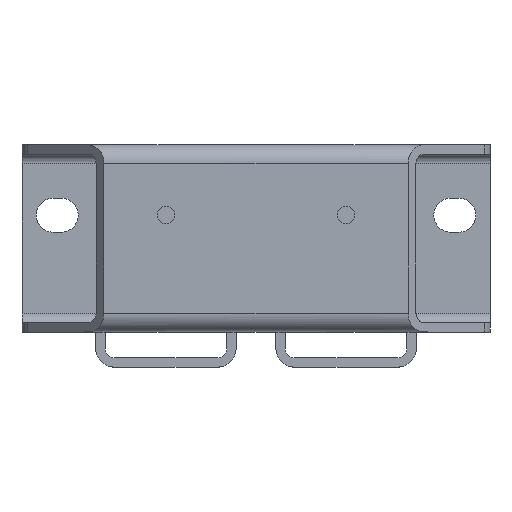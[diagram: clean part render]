
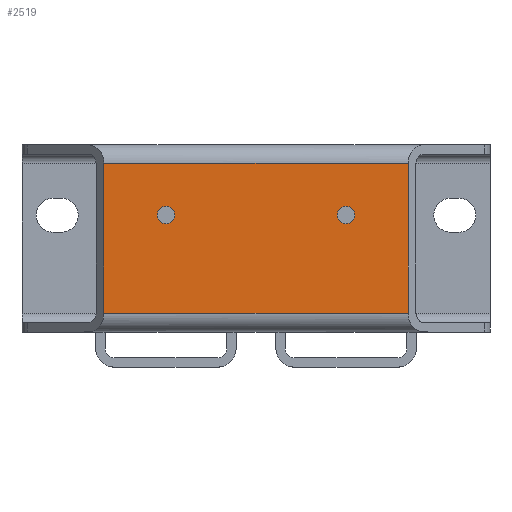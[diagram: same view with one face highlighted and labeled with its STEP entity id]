
A CAD part, top view. The second image highlights one B-rep face of the part: STEP entity #2519.
In plain terms, the highlighted planar face has unit normal (0, 0, 1).
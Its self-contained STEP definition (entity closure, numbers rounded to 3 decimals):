
#244=CARTESIAN_POINT('',(-65.,-32.,30.0));
#245=VERTEX_POINT('',#244);
#253=CARTESIAN_POINT('',(-65.,32.,30.0));
#254=VERTEX_POINT('',#253);
#255=CARTESIAN_POINT('',(-65.,32.,30.));
#256=DIRECTION('',(0.0,-1.0,0.0));
#257=VECTOR('',#256,64.);
#258=LINE('',#255,#257);
#259=EDGE_CURVE('',#254,#245,#258,.T.);
#583=CARTESIAN_POINT('',(65.,32.,30.0));
#584=VERTEX_POINT('',#583);
#592=CARTESIAN_POINT('',(65.,-32.,30.0));
#593=VERTEX_POINT('',#592);
#594=CARTESIAN_POINT('',(65.,-32.,30.));
#595=DIRECTION('',(0.0,1.0,0.0));
#596=VECTOR('',#595,64.);
#597=LINE('',#594,#596);
#598=EDGE_CURVE('',#593,#584,#597,.T.);
#1106=CARTESIAN_POINT('',(34.8,10.0,30.0));
#1107=VERTEX_POINT('',#1106);
#1108=CARTESIAN_POINT('',(38.5,10.0,30.0));
#1109=DIRECTION('',(0.0,0.0,-1.0));
#1110=DIRECTION('',(-1.0,0.0,0.0));
#1111=AXIS2_PLACEMENT_3D('',#1108,#1109,#1110);
#1112=CIRCLE('',#1111,3.7);
#1113=EDGE_CURVE('',#1107,#1107,#1112,.T.);
#1619=CARTESIAN_POINT('',(65.,32.,30.0));
#1620=DIRECTION('',(-1.0,0.0,0.0));
#1621=VECTOR('',#1620,130.);
#1622=LINE('',#1619,#1621);
#1623=EDGE_CURVE('',#584,#254,#1622,.T.);
#2088=CARTESIAN_POINT('',(-65.,-32.,30.0));
#2089=DIRECTION('',(1.0,0.0,0.0));
#2090=VECTOR('',#2089,130.);
#2091=LINE('',#2088,#2090);
#2092=EDGE_CURVE('',#245,#593,#2091,.T.);
#2181=CARTESIAN_POINT('',(-34.8,10.0,30.0));
#2182=VERTEX_POINT('',#2181);
#2183=CARTESIAN_POINT('',(-38.5,10.0,30.0));
#2184=DIRECTION('',(0.0,0.0,-1.0));
#2185=DIRECTION('',(1.0,0.0,0.0));
#2186=AXIS2_PLACEMENT_3D('',#2183,#2184,#2185);
#2187=CIRCLE('',#2186,3.7);
#2188=EDGE_CURVE('',#2182,#2182,#2187,.T.);
#2502=CARTESIAN_POINT('',(0.0,-32.,30.0));
#2503=DIRECTION('',(0.0,0.0,1.0));
#2504=DIRECTION('',(1.0,0.0,0.0));
#2505=AXIS2_PLACEMENT_3D('',#2502,#2503,#2504);
#2506=PLANE('',#2505);
#2507=ORIENTED_EDGE('',*,*,#598,.T.);
#2508=ORIENTED_EDGE('',*,*,#1623,.T.);
#2509=ORIENTED_EDGE('',*,*,#259,.T.);
#2510=ORIENTED_EDGE('',*,*,#2092,.T.);
#2511=EDGE_LOOP('',(#2507,#2508,#2509,#2510));
#2512=FACE_OUTER_BOUND('',#2511,.T.);
#2513=ORIENTED_EDGE('',*,*,#1113,.T.);
#2514=EDGE_LOOP('',(#2513));
#2515=FACE_BOUND('',#2514,.T.);
#2516=ORIENTED_EDGE('',*,*,#2188,.T.);
#2517=EDGE_LOOP('',(#2516));
#2518=FACE_BOUND('',#2517,.T.);
#2519=ADVANCED_FACE('',(#2512,#2515,#2518),#2506,.T.);
